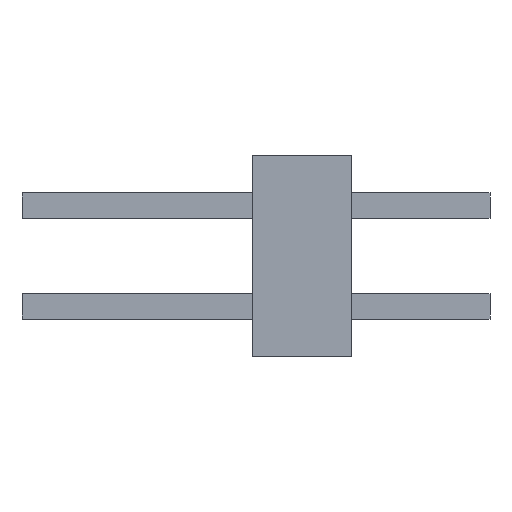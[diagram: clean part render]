
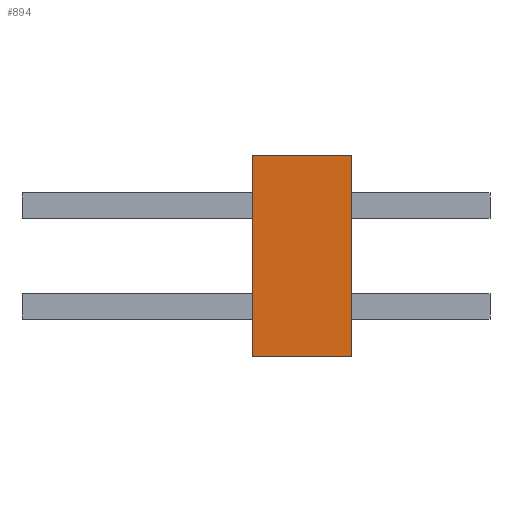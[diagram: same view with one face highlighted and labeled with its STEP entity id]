
A CAD part, left-side view. The second image highlights one B-rep face of the part: STEP entity #894.
In plain terms, the highlighted planar face has unit normal (-1, 0, 0).
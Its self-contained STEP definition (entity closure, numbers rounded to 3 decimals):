
#125 = PLANE('',#126);
#126 = AXIS2_PLACEMENT_3D('',#127,#128,#129);
#127 = CARTESIAN_POINT('',(16.5,1.45,16.02));
#128 = DIRECTION('',(-0.,1.,0.));
#129 = DIRECTION('',(0.,0.,1.));
#214 = VERTEX_POINT('',#215);
#215 = CARTESIAN_POINT('',(16.5,1.45,16.02));
#231 = PLANE('',#232);
#232 = AXIS2_PLACEMENT_3D('',#233,#234,#235);
#233 = CARTESIAN_POINT('',(16.5,1.45,16.02));
#234 = DIRECTION('',(0.,0.,1.));
#235 = DIRECTION('',(1.,0.,-0.));
#243 = EDGE_CURVE('',#214,#244,#246,.T.);
#244 = VERTEX_POINT('',#245);
#245 = CARTESIAN_POINT('',(16.5,1.45,21.1));
#246 = SURFACE_CURVE('',#247,(#251,#258),.PCURVE_S1.);
#247 = LINE('',#248,#249);
#248 = CARTESIAN_POINT('',(16.5,1.45,16.02));
#249 = VECTOR('',#250,1.);
#250 = DIRECTION('',(0.,0.,1.));
#251 = PCURVE('',#125,#252);
#252 = DEFINITIONAL_REPRESENTATION('',(#253),#257);
#253 = LINE('',#254,#255);
#254 = CARTESIAN_POINT('',(0.,0.));
#255 = VECTOR('',#256,1.);
#256 = DIRECTION('',(1.,0.));
#257 = ( GEOMETRIC_REPRESENTATION_CONTEXT(2) 
PARAMETRIC_REPRESENTATION_CONTEXT() REPRESENTATION_CONTEXT('2D SPACE',''
  ) );
#258 = PCURVE('',#259,#264);
#259 = PLANE('',#260);
#260 = AXIS2_PLACEMENT_3D('',#261,#262,#263);
#261 = CARTESIAN_POINT('',(16.5,1.45,16.02));
#262 = DIRECTION('',(1.,0.,-0.));
#263 = DIRECTION('',(0.,0.,1.));
#264 = DEFINITIONAL_REPRESENTATION('',(#265),#269);
#265 = LINE('',#266,#267);
#266 = CARTESIAN_POINT('',(0.,0.));
#267 = VECTOR('',#268,1.);
#268 = DIRECTION('',(1.,0.));
#269 = ( GEOMETRIC_REPRESENTATION_CONTEXT(2) 
PARAMETRIC_REPRESENTATION_CONTEXT() REPRESENTATION_CONTEXT('2D SPACE',''
  ) );
#287 = PLANE('',#288);
#288 = AXIS2_PLACEMENT_3D('',#289,#290,#291);
#289 = CARTESIAN_POINT('',(16.5,1.45,21.1));
#290 = DIRECTION('',(0.,0.,1.));
#291 = DIRECTION('',(1.,0.,-0.));
#773 = EDGE_CURVE('',#214,#774,#776,.T.);
#774 = VERTEX_POINT('',#775);
#775 = CARTESIAN_POINT('',(16.5,3.95,16.02));
#776 = SURFACE_CURVE('',#777,(#781,#788),.PCURVE_S1.);
#777 = LINE('',#778,#779);
#778 = CARTESIAN_POINT('',(16.5,1.45,16.02));
#779 = VECTOR('',#780,1.);
#780 = DIRECTION('',(-0.,1.,0.));
#781 = PCURVE('',#231,#782);
#782 = DEFINITIONAL_REPRESENTATION('',(#783),#787);
#783 = LINE('',#784,#785);
#784 = CARTESIAN_POINT('',(0.,0.));
#785 = VECTOR('',#786,1.);
#786 = DIRECTION('',(0.,1.));
#787 = ( GEOMETRIC_REPRESENTATION_CONTEXT(2) 
PARAMETRIC_REPRESENTATION_CONTEXT() REPRESENTATION_CONTEXT('2D SPACE',''
  ) );
#788 = PCURVE('',#259,#789);
#789 = DEFINITIONAL_REPRESENTATION('',(#790),#794);
#790 = LINE('',#791,#792);
#791 = CARTESIAN_POINT('',(0.,0.));
#792 = VECTOR('',#793,1.);
#793 = DIRECTION('',(0.,-1.));
#794 = ( GEOMETRIC_REPRESENTATION_CONTEXT(2) 
PARAMETRIC_REPRESENTATION_CONTEXT() REPRESENTATION_CONTEXT('2D SPACE',''
  ) );
#834 = PLANE('',#835);
#835 = AXIS2_PLACEMENT_3D('',#836,#837,#838);
#836 = CARTESIAN_POINT('',(16.5,3.95,16.02));
#837 = DIRECTION('',(-0.,1.,0.));
#838 = DIRECTION('',(0.,0.,1.));
#894 = ADVANCED_FACE('',(#895),#259,.F.);
#895 = FACE_BOUND('',#896,.F.);
#896 = EDGE_LOOP('',(#897,#898,#899,#922));
#897 = ORIENTED_EDGE('',*,*,#243,.F.);
#898 = ORIENTED_EDGE('',*,*,#773,.T.);
#899 = ORIENTED_EDGE('',*,*,#900,.T.);
#900 = EDGE_CURVE('',#774,#901,#903,.T.);
#901 = VERTEX_POINT('',#902);
#902 = CARTESIAN_POINT('',(16.5,3.95,21.1));
#903 = SURFACE_CURVE('',#904,(#908,#915),.PCURVE_S1.);
#904 = LINE('',#905,#906);
#905 = CARTESIAN_POINT('',(16.5,3.95,16.02));
#906 = VECTOR('',#907,1.);
#907 = DIRECTION('',(0.,0.,1.));
#908 = PCURVE('',#259,#909);
#909 = DEFINITIONAL_REPRESENTATION('',(#910),#914);
#910 = LINE('',#911,#912);
#911 = CARTESIAN_POINT('',(0.,-2.5));
#912 = VECTOR('',#913,1.);
#913 = DIRECTION('',(1.,0.));
#914 = ( GEOMETRIC_REPRESENTATION_CONTEXT(2) 
PARAMETRIC_REPRESENTATION_CONTEXT() REPRESENTATION_CONTEXT('2D SPACE',''
  ) );
#915 = PCURVE('',#834,#916);
#916 = DEFINITIONAL_REPRESENTATION('',(#917),#921);
#917 = LINE('',#918,#919);
#918 = CARTESIAN_POINT('',(0.,0.));
#919 = VECTOR('',#920,1.);
#920 = DIRECTION('',(1.,0.));
#921 = ( GEOMETRIC_REPRESENTATION_CONTEXT(2) 
PARAMETRIC_REPRESENTATION_CONTEXT() REPRESENTATION_CONTEXT('2D SPACE',''
  ) );
#922 = ORIENTED_EDGE('',*,*,#923,.F.);
#923 = EDGE_CURVE('',#244,#901,#924,.T.);
#924 = SURFACE_CURVE('',#925,(#929,#936),.PCURVE_S1.);
#925 = LINE('',#926,#927);
#926 = CARTESIAN_POINT('',(16.5,1.45,21.1));
#927 = VECTOR('',#928,1.);
#928 = DIRECTION('',(-0.,1.,0.));
#929 = PCURVE('',#259,#930);
#930 = DEFINITIONAL_REPRESENTATION('',(#931),#935);
#931 = LINE('',#932,#933);
#932 = CARTESIAN_POINT('',(5.08,0.));
#933 = VECTOR('',#934,1.);
#934 = DIRECTION('',(0.,-1.));
#935 = ( GEOMETRIC_REPRESENTATION_CONTEXT(2) 
PARAMETRIC_REPRESENTATION_CONTEXT() REPRESENTATION_CONTEXT('2D SPACE',''
  ) );
#936 = PCURVE('',#287,#937);
#937 = DEFINITIONAL_REPRESENTATION('',(#938),#942);
#938 = LINE('',#939,#940);
#939 = CARTESIAN_POINT('',(0.,0.));
#940 = VECTOR('',#941,1.);
#941 = DIRECTION('',(0.,1.));
#942 = ( GEOMETRIC_REPRESENTATION_CONTEXT(2) 
PARAMETRIC_REPRESENTATION_CONTEXT() REPRESENTATION_CONTEXT('2D SPACE',''
  ) );
